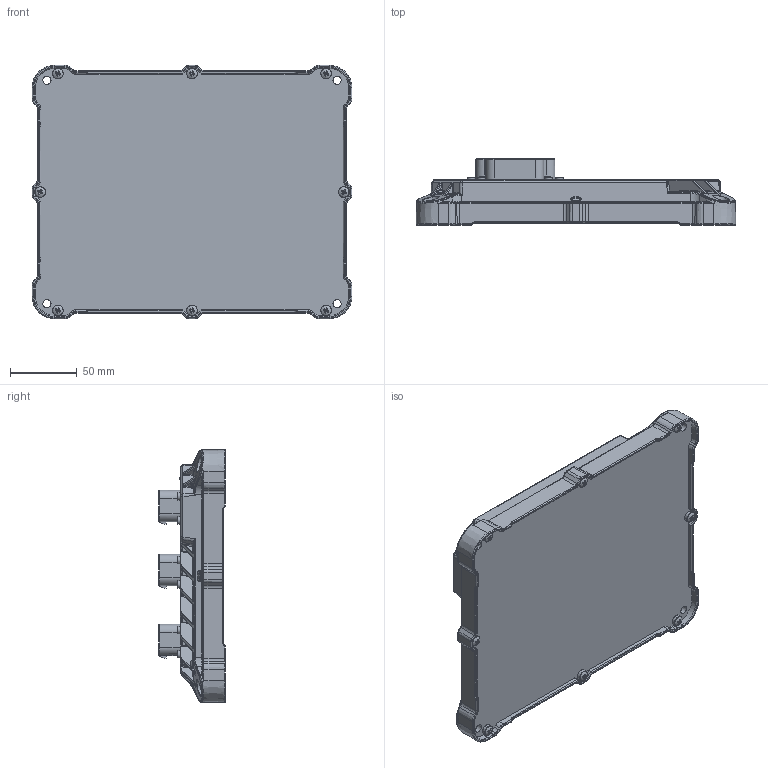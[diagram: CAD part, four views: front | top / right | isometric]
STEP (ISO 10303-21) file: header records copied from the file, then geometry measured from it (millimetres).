
FILE_DESCRIPTION (( 'STEP AP214' ), '1' );
FILE_NAME ('DSE_M240_MKII.STEP', '2020-07-27T13:20:50', ( '' ), ( '' ), 'SwSTEP 2.0', 'SolidWorks 2019', '' );
FILE_SCHEMA (( 'AUTOMOTIVE_DESIGN' ));
Length unit declared in the file: millimetre
Products named in the file (1): DSE_M240_MKII
Bounding box: 240.18 x 49.85 x 190.18 mm (x, y, z)
Volume: 1003680.6 mm3; surface area: 157463.1 mm2
Topology: 1 solids, 1 shells, 4757 faces, 12179 edges, 7538 vertices
Faces by surface type: plane 2325, cylinder 1142, bspline 789, cone 210, torus 204, sphere 87
Full cylindrical faces by diameter (mm): 1.3 x93, 4.91 x1, 5.6 x12, 6.2 x4, 8 x8, 11.96 x4
Entity records: 174359 total; most frequent: CARTESIAN_POINT 77038, ORIENTED_EDGE 23758, DIRECTION 14927, EDGE_CURVE 11879, VERTEX_POINT 7490, B_SPLINE_CURVE_WITH_KNOTS 6434, AXIS2_PLACEMENT_3D 6092, EDGE_LOOP 5131
